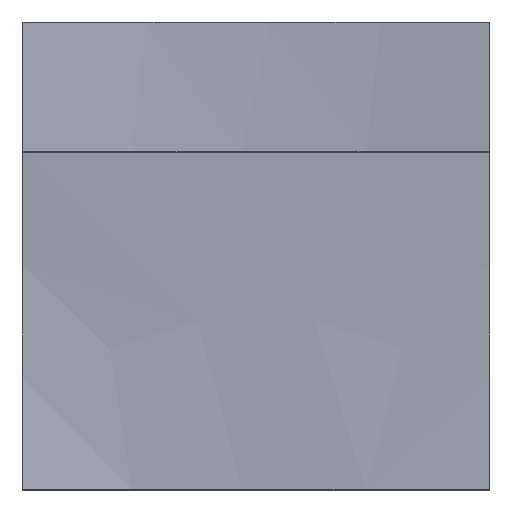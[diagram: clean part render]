
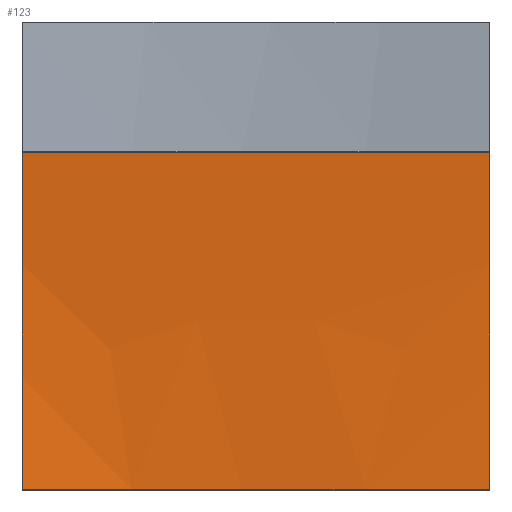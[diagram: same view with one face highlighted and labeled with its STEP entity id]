
A CAD part, top view. The second image highlights one B-rep face of the part: STEP entity #123.
In plain terms, the highlighted free-form (B-spline) face has degree [3, 3] with [5, 11] control points.
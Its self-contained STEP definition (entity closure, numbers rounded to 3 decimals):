
#23=B_SPLINE_CURVE_WITH_KNOTS('',3,(#696,#697,#698,#699,#700),
 .UNSPECIFIED.,.F.,.F.,(4,1,4),(0.,390.512,781.025),
 .UNSPECIFIED.);
#24=B_SPLINE_CURVE_WITH_KNOTS('',3,(#701,#702,#703,#704,#705,#706,#707,
#708,#709,#710,#711),.UNSPECIFIED.,.F.,.F.,(4,2,1,1,1,2,4),(-1081.967,
-811.475,-676.23,-540.984,-405.738,
-270.492,0.),.UNSPECIFIED.);
#25=B_SPLINE_CURVE_WITH_KNOTS('',3,(#712,#713,#714,#715,#716),
 .UNSPECIFIED.,.F.,.F.,(4,1,4),(-781.025,-390.512,0.),
 .UNSPECIFIED.);
#33=B_SPLINE_CURVE_WITH_KNOTS('',1,(#731,#732),.UNSPECIFIED.,.F.,.F.,(2,
2),(0.,1080.),.UNSPECIFIED.);
#36=B_SPLINE_SURFACE_WITH_KNOTS('',3,3,((#628,#629,#630,#631,#632,#633,
#634,#635,#636,#637,#638),(#639,#640,#641,#642,#643,#644,#645,#646,#647,
#648,#649),(#650,#651,#652,#653,#654,#655,#656,#657,#658,#659,#660),(#661,
#662,#663,#664,#665,#666,#667,#668,#669,#670,#671),(#672,#673,#674,#675,
#676,#677,#678,#679,#680,#681,#682)),.UNSPECIFIED.,.F.,.F.,.F.,(4,1,4),
(4,2,1,1,1,2,4),(0.,390.512,781.025),(0.,270.492,
405.738,540.984,676.23,811.475,1081.967),
 .UNSPECIFIED.);
#123=ADVANCED_FACE('',(#147),#36,.T.);
#147=FACE_OUTER_BOUND('',#171,.T.);
#171=EDGE_LOOP('',(#225,#226,#227,#228));
#225=ORIENTED_EDGE('',*,*,#275,.F.);
#226=ORIENTED_EDGE('',*,*,#274,.F.);
#227=ORIENTED_EDGE('',*,*,#273,.F.);
#228=ORIENTED_EDGE('',*,*,#283,.F.);
#273=EDGE_CURVE('',#314,#315,#23,.T.);
#274=EDGE_CURVE('',#315,#316,#24,.T.);
#275=EDGE_CURVE('',#316,#313,#25,.T.);
#283=EDGE_CURVE('',#313,#314,#33,.T.);
#313=VERTEX_POINT('',#688);
#314=VERTEX_POINT('',#689);
#315=VERTEX_POINT('',#690);
#316=VERTEX_POINT('',#691);
#628=CARTESIAN_POINT('',(0.,-300.,420.));
#629=CARTESIAN_POINT('',(90.,-300.,420.));
#630=CARTESIAN_POINT('',(180.,-300.,420.));
#631=CARTESIAN_POINT('',(315.,-300.,420.));
#632=CARTESIAN_POINT('',(405.,-300.,420.));
#633=CARTESIAN_POINT('',(540.,-300.,420.));
#634=CARTESIAN_POINT('',(675.,-300.,420.));
#635=CARTESIAN_POINT('',(765.,-300.,420.));
#636=CARTESIAN_POINT('',(900.,-300.,420.));
#637=CARTESIAN_POINT('',(990.,-300.,420.));
#638=CARTESIAN_POINT('',(1080.,-300.,420.));
#639=CARTESIAN_POINT('',(0.,-429.492,406.719));
#640=CARTESIAN_POINT('',(90.063,-429.25,404.522));
#641=CARTESIAN_POINT('',(180.153,-429.284,406.183));
#642=CARTESIAN_POINT('',(315.109,-429.591,409.488));
#643=CARTESIAN_POINT('',(405.017,-429.846,411.963));
#644=CARTESIAN_POINT('',(540.,-430.077,414.019));
#645=CARTESIAN_POINT('',(674.983,-429.846,411.963));
#646=CARTESIAN_POINT('',(764.891,-429.591,409.488));
#647=CARTESIAN_POINT('',(899.847,-429.283,406.183));
#648=CARTESIAN_POINT('',(989.937,-429.25,404.522));
#649=CARTESIAN_POINT('',(1080.,-429.492,406.719));
#650=CARTESIAN_POINT('',(0.,-690.,393.281));
#651=CARTESIAN_POINT('',(90.019,-689.513,386.662));
#652=CARTESIAN_POINT('',(180.172,-689.326,388.351));
#653=CARTESIAN_POINT('',(315.105,-689.561,393.355));
#654=CARTESIAN_POINT('',(404.954,-689.819,397.514));
#655=CARTESIAN_POINT('',(540.,-690.09,401.243));
#656=CARTESIAN_POINT('',(675.046,-689.819,397.514));
#657=CARTESIAN_POINT('',(764.895,-689.561,393.355));
#658=CARTESIAN_POINT('',(899.827,-689.326,388.351));
#659=CARTESIAN_POINT('',(989.982,-689.513,386.662));
#660=CARTESIAN_POINT('',(1080.,-690.,393.281));
#661=CARTESIAN_POINT('',(0.,-950.508,406.719));
#662=CARTESIAN_POINT('',(89.63,-950.267,395.678));
#663=CARTESIAN_POINT('',(179.609,-950.046,390.668));
#664=CARTESIAN_POINT('',(314.646,-949.973,387.29));
#665=CARTESIAN_POINT('',(404.689,-949.974,386.417));
#666=CARTESIAN_POINT('',(540.,-950.013,386.791));
#667=CARTESIAN_POINT('',(675.31,-949.974,386.417));
#668=CARTESIAN_POINT('',(765.354,-949.973,387.29));
#669=CARTESIAN_POINT('',(900.39,-950.046,390.668));
#670=CARTESIAN_POINT('',(990.371,-950.267,395.679));
#671=CARTESIAN_POINT('',(1080.,-950.508,406.719));
#672=CARTESIAN_POINT('',(0.,-1080.,420.));
#673=CARTESIAN_POINT('',(89.352,-1080.,406.763));
#674=CARTESIAN_POINT('',(179.186,-1080.,396.765));
#675=CARTESIAN_POINT('',(314.305,-1080.,386.729));
#676=CARTESIAN_POINT('',(404.508,-1080.,381.692));
#677=CARTESIAN_POINT('',(540.,-1080.,379.154));
#678=CARTESIAN_POINT('',(675.492,-1080.,381.692));
#679=CARTESIAN_POINT('',(765.694,-1080.,386.729));
#680=CARTESIAN_POINT('',(900.813,-1080.,396.765));
#681=CARTESIAN_POINT('',(990.649,-1080.,406.763));
#682=CARTESIAN_POINT('',(1080.,-1080.,420.));
#688=CARTESIAN_POINT('',(0.,-300.,420.));
#689=CARTESIAN_POINT('',(1080.,-300.,420.));
#690=CARTESIAN_POINT('',(1080.,-1080.,420.));
#691=CARTESIAN_POINT('',(0.,-1080.,420.));
#696=CARTESIAN_POINT('',(1080.,-300.,420.));
#697=CARTESIAN_POINT('',(1080.,-429.492,406.719));
#698=CARTESIAN_POINT('',(1080.,-690.,393.281));
#699=CARTESIAN_POINT('',(1080.,-950.508,406.719));
#700=CARTESIAN_POINT('',(1080.,-1080.,420.));
#701=CARTESIAN_POINT('',(1080.,-1080.,420.));
#702=CARTESIAN_POINT('',(990.649,-1080.,406.763));
#703=CARTESIAN_POINT('',(900.813,-1080.,396.765));
#704=CARTESIAN_POINT('',(765.694,-1080.,386.729));
#705=CARTESIAN_POINT('',(675.492,-1080.,381.692));
#706=CARTESIAN_POINT('',(540.,-1080.,379.154));
#707=CARTESIAN_POINT('',(404.508,-1080.,381.692));
#708=CARTESIAN_POINT('',(314.305,-1080.,386.729));
#709=CARTESIAN_POINT('',(179.186,-1080.,396.765));
#710=CARTESIAN_POINT('',(89.352,-1080.,406.763));
#711=CARTESIAN_POINT('',(0.,-1080.,420.));
#712=CARTESIAN_POINT('',(0.,-1080.,420.));
#713=CARTESIAN_POINT('',(0.,-950.508,406.719));
#714=CARTESIAN_POINT('',(0.,-690.,393.281));
#715=CARTESIAN_POINT('',(0.,-429.492,406.719));
#716=CARTESIAN_POINT('',(0.,-300.,420.));
#731=CARTESIAN_POINT('',(0.,-300.,420.));
#732=CARTESIAN_POINT('',(1080.,-300.,420.));
